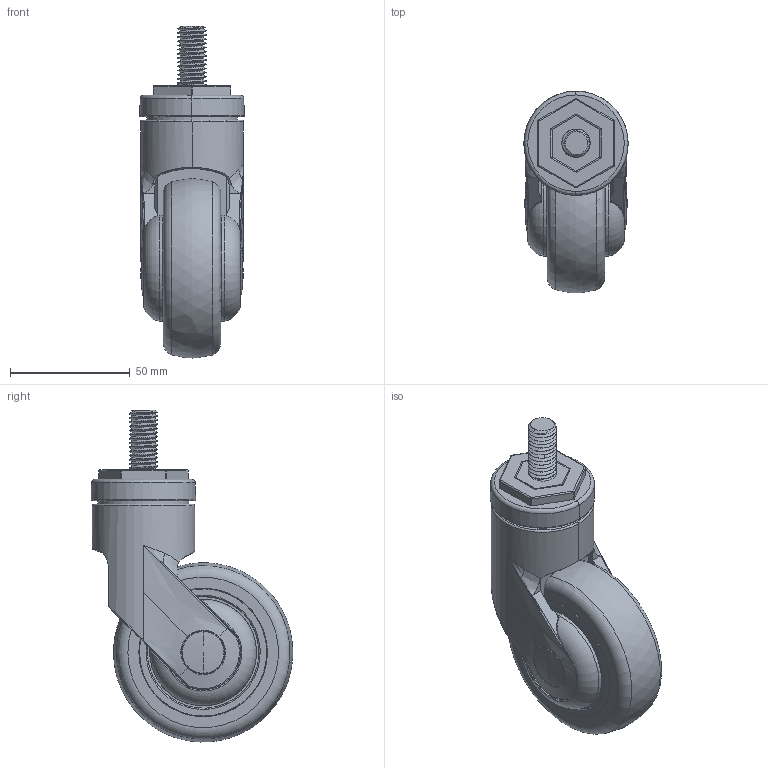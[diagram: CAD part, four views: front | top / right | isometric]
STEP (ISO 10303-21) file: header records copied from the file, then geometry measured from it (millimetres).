
FILE_DESCRIPTION((''),'2;1');
FILE_NAME('ZT-HUO-DONG-JI-ZHA','2022-03-30T',('100990349'),(''),'PRO/ENGINEER BY PARAMETRIC TECHNOLOGY CORPORATION, 2007450','PRO/ENGINEER BY PARAMETRIC TECHNOLOGY CORPORATION, 2007450','');
FILE_SCHEMA(('CONFIG_CONTROL_DESIGN'));
Length unit declared in the file: millimetre
Products named in the file (1): ZT-HUO-DONG-JI-ZHA
Bounding box: 43.67 x 84.33 x 138.89 mm (x, y, z)
Volume: 194601.3 mm3; surface area: 37308.7 mm2
Topology: 1 solids, 5 shells, 387 faces, 1147 edges, 757 vertices
Faces by surface type: cylinder 121, plane 111, bspline 70, torus 46, cone 19, sphere 16, extrusion 4
Entity records: 18901 total; most frequent: CARTESIAN_POINT 9125, ORIENTED_EDGE 2266, DIRECTION 1806, EDGE_CURVE 1133, VERTEX_POINT 757, AXIS2_PLACEMENT_3D 717, CIRCLE 404, EDGE_LOOP 396
